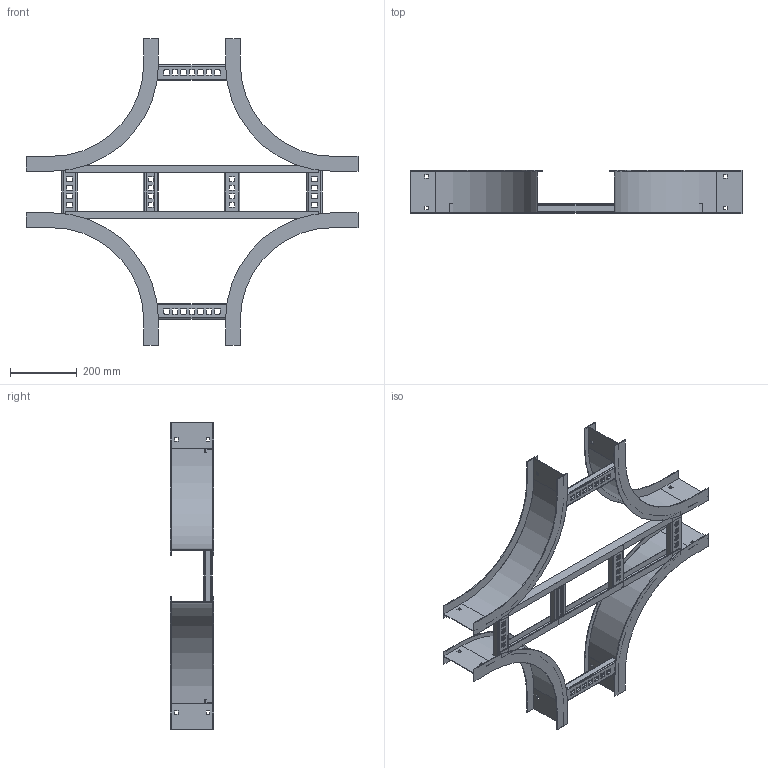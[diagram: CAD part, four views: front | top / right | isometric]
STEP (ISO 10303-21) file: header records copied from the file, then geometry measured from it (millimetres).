
FILE_DESCRIPTION((''),'2;1');
FILE_NAME('AHF50609LEX12_ASM','2010-01-27T',('erouzier'),(''),'PRO/ENGINEER BY PARAMETRIC TECHNOLOGY CORPORATION, 2008510','PRO/ENGINEER BY PARAMETRIC TECHNOLOGY CORPORATION, 2008510','');
FILE_SCHEMA(('CONFIG_CONTROL_DESIGN'));
Length unit declared in the file: inch
Products named in the file (9): CDS001811-5-90-12-I; CDS002159L6-P_AF8; CDS002159L6-P_AF9; CDS002159L6-P_AF10; CDS002159L6-P_AF11; CDS000495_GEN_AF14; CDS000495_GEN_AF15; CDS002159L9-P; AHF50609LEX12_ASM
Assembly tree (12 placements, depth 2):
  AHF50609LEX12_ASM
    CDS001811-5-90-12-I  x4
    CDS002159L6-P_AF8
    CDS002159L6-P_AF9
    CDS002159L6-P_AF10
    CDS002159L6-P_AF11
    CDS000495_GEN_AF14
    CDS000495_GEN_AF15
    CDS002159L9-P  x2
Bounding box: 994.66 x 129.03 x 918.46 mm (x, y, z)
Volume: 1507911.3 mm3; surface area: 1536353.5 mm2
Topology: 12 solids, 12 shells, 608 faces, 1752 edges, 1168 vertices
Faces by surface type: plane 398, cylinder 210
Entity records: 13379 total; most frequent: CARTESIAN_POINT 2317, DIRECTION 2280, ORIENTED_EDGE 2280, EDGE_CURVE 1140, VECTOR 834, LINE 834, VERTEX_POINT 760, AXIS2_PLACEMENT_3D 723
